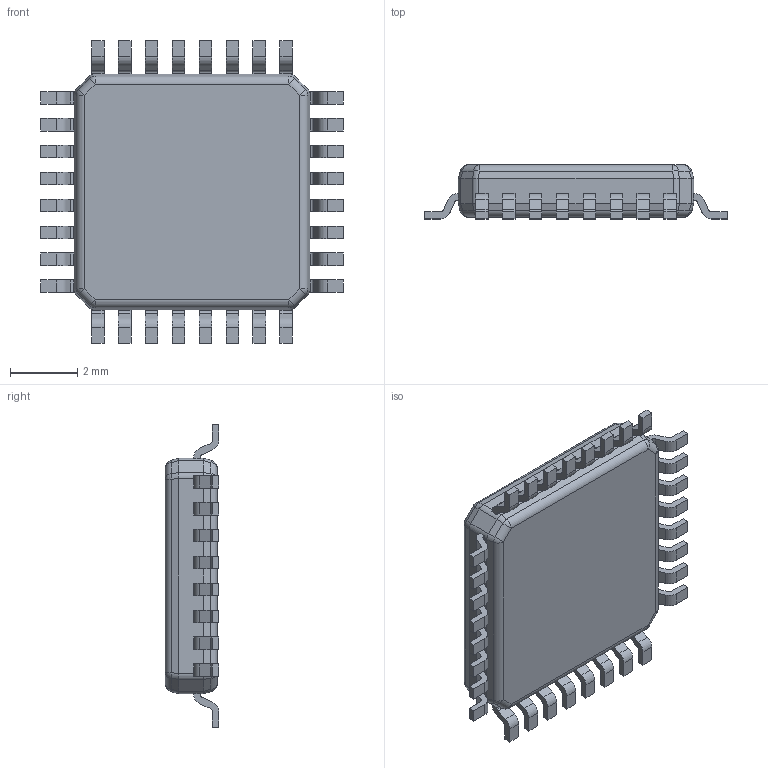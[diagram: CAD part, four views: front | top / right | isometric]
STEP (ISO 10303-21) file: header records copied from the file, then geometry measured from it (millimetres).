
FILE_DESCRIPTION (( 'STEP AP214' ), '1' );
FILE_NAME ( 'QFP32P80_900X900X160L60X37.STEP', '2021-10-06T06:49:12', ( '' ), ( '' ), '', '©2017 PCB Libraries, Inc.', '' );
FILE_SCHEMA (( 'AUTOMOTIVE_DESIGN' ));
Length unit declared in the file: millimetre
Products named in the file (1): QFP32P80_900X900X160L60X37
Bounding box: 9 x 1.6 x 9 mm (x, y, z)
Volume: 76.7 mm3; surface area: 183 mm2
Topology: 33 solids, 33 shells, 535 faces, 1370 edges, 886 vertices
Faces by surface type: plane 347, cylinder 170, sphere 16, torus 2
Entity records: 17887 total; most frequent: CARTESIAN_POINT 2920, ORIENTED_EDGE 2708, DIRECTION 2690, EDGE_CURVE 1354, VECTOR 994, LINE 994, VERTEX_POINT 886, AXIS2_PLACEMENT_3D 848
